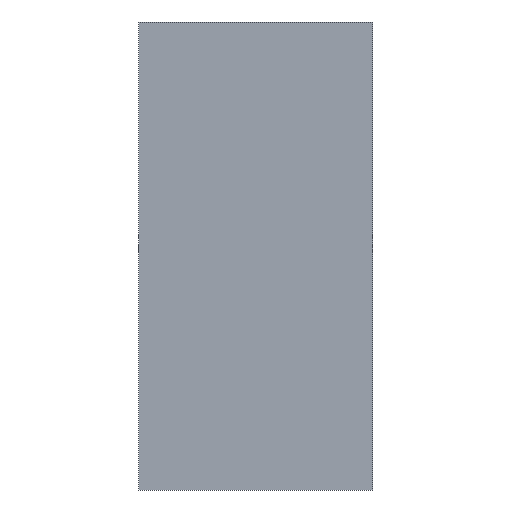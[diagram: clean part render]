
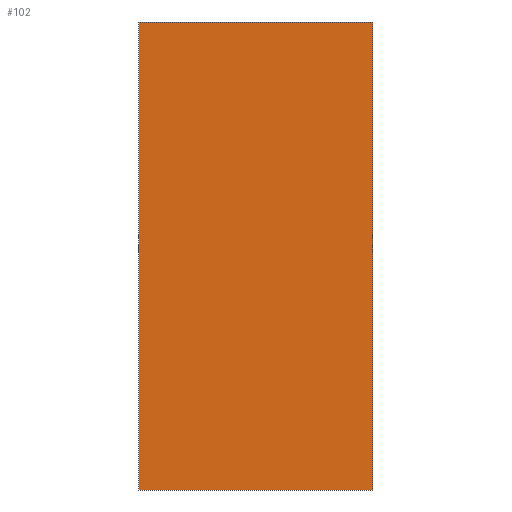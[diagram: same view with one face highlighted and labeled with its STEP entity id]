
A CAD part, front view. The second image highlights one B-rep face of the part: STEP entity #102.
In plain terms, the highlighted planar face has unit normal (0, -1, 0).
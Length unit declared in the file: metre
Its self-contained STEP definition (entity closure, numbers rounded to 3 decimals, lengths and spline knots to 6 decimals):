
#28=ORIENTED_EDGE('',*,*,#38,.F.);
#29=ORIENTED_EDGE('',*,*,#42,.T.);
#30=ORIENTED_EDGE('',*,*,#45,.T.);
#31=ORIENTED_EDGE('',*,*,#47,.F.);
#38=EDGE_CURVE('',#50,#51,#58,.T.);
#42=EDGE_CURVE('',#50,#53,#62,.T.);
#45=EDGE_CURVE('',#53,#55,#65,.T.);
#47=EDGE_CURVE('',#51,#55,#67,.T.);
#50=VERTEX_POINT('',#155);
#51=VERTEX_POINT('',#157);
#53=VERTEX_POINT('',#163);
#55=VERTEX_POINT('',#169);
#58=LINE('',#156,#70);
#62=LINE('',#164,#74);
#65=LINE('',#170,#77);
#67=LINE('',#173,#79);
#70=VECTOR('',#129,1.);
#74=VECTOR('',#135,1.);
#77=VECTOR('',#140,1.);
#79=VECTOR('',#144,1.);
#84=EDGE_LOOP('',(#28,#29,#30,#31));
#90=FACE_BOUND('',#84,.T.);
#96=PLANE('',#121);
#102=ADVANCED_FACE('',(#90),#96,.T.);
#121=AXIS2_PLACEMENT_3D('',#174,#145,#146);
#129=DIRECTION('',(-1.,0.,0.));
#135=DIRECTION('',(0.,0.,1.));
#140=DIRECTION('',(-1.,0.,0.));
#144=DIRECTION('',(0.,0.,1.));
#145=DIRECTION('',(0.,-1.,0.));
#146=DIRECTION('',(1.,0.,0.));
#155=CARTESIAN_POINT('',(0.01,-0.15,-0.02));
#156=CARTESIAN_POINT('',(0.,-0.15,-0.02));
#157=CARTESIAN_POINT('',(-0.01,-0.15,-0.02));
#163=CARTESIAN_POINT('',(0.01,-0.15,0.02));
#164=CARTESIAN_POINT('',(0.01,-0.15,0.));
#169=CARTESIAN_POINT('',(-0.01,-0.15,0.02));
#170=CARTESIAN_POINT('',(0.,-0.15,0.02));
#173=CARTESIAN_POINT('',(-0.01,-0.15,0.));
#174=CARTESIAN_POINT('',(0.,-0.15,0.));
